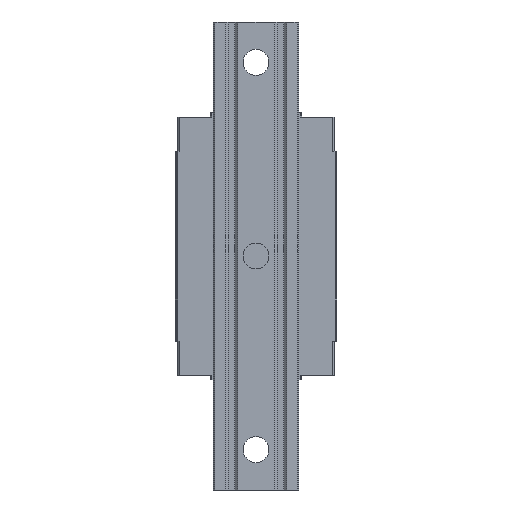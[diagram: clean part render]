
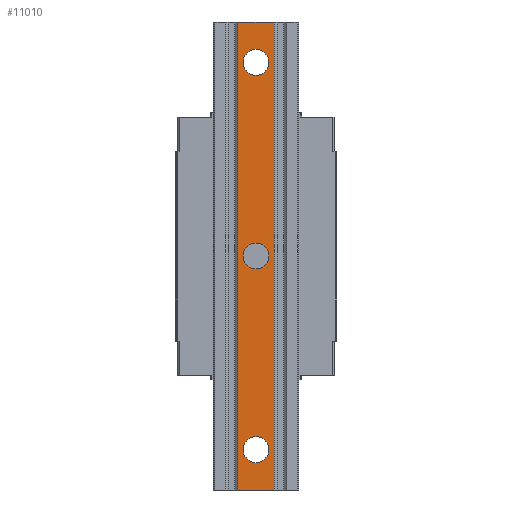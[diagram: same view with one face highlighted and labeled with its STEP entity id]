
A CAD part, front view. The second image highlights one B-rep face of the part: STEP entity #11010.
In plain terms, the highlighted planar face has unit normal (0, -1, 0).
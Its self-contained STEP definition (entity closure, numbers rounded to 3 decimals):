
#436 = LINE ( 'NONE', #9049, #4949 ) ;
#901 = EDGE_LOOP ( 'NONE', ( #7144, #11995 ) ) ;
#1185 = DIRECTION ( 'NONE',  ( 1., 0., 0. ) ) ;
#1239 = DIRECTION ( 'NONE',  ( 0., 0., 1. ) ) ;
#1259 = DIRECTION ( 'NONE',  ( 0., 0., 1. ) ) ;
#1337 = EDGE_CURVE ( 'NONE', #9044, #10629, #1723, .T. ) ;
#1375 = VECTOR ( 'NONE', #6667, 1000. ) ;
#1439 = DIRECTION ( 'NONE',  ( 0., -1., 0. ) ) ;
#1723 = LINE ( 'NONE', #5799, #9562 ) ;
#1738 = ORIENTED_EDGE ( 'NONE', *, *, #7903, .T. ) ;
#1750 = ORIENTED_EDGE ( 'NONE', *, *, #2793, .T. ) ;
#1868 = DIRECTION ( 'NONE',  ( 0., 1., 0. ) ) ;
#2343 = VERTEX_POINT ( 'NONE', #9725 ) ;
#2492 = VERTEX_POINT ( 'NONE', #5760 ) ;
#2559 = CARTESIAN_POINT ( 'NONE',  ( 0., 0., -1105. ) ) ;
#2604 = CARTESIAN_POINT ( 'NONE',  ( -26.5, 0., -1198.884 ) ) ;
#2715 = VERTEX_POINT ( 'NONE', #10479 ) ;
#2793 = EDGE_CURVE ( 'NONE', #12435, #12279, #7852, .T. ) ;
#3046 = EDGE_LOOP ( 'NONE', ( #7051, #12318 ) ) ;
#3236 = EDGE_CURVE ( 'NONE', #12816, #2492, #9785, .T. ) ;
#3266 = CARTESIAN_POINT ( 'NONE',  ( -11.357, 0., -1130. ) ) ;
#3504 = FACE_BOUND ( 'NONE', #3046, .T. ) ;
#4009 = AXIS2_PLACEMENT_3D ( 'NONE', #8897, #9773, #4787 ) ;
#4269 = CARTESIAN_POINT ( 'NONE',  ( 11.357, 0., -840. ) ) ;
#4466 = CARTESIAN_POINT ( 'NONE',  ( 11.357, 0., -1130. ) ) ;
#4671 = DIRECTION ( 'NONE',  ( 0., 0., 1. ) ) ;
#4772 = DIRECTION ( 'NONE',  ( 0., 0., -1. ) ) ;
#4787 = DIRECTION ( 'NONE',  ( 0., 0., 1. ) ) ;
#4845 = EDGE_CURVE ( 'NONE', #2715, #7582, #10169, .T. ) ;
#4949 = VECTOR ( 'NONE', #4671, 1000. ) ;
#5019 = ORIENTED_EDGE ( 'NONE', *, *, #1337, .T. ) ;
#5073 = CARTESIAN_POINT ( 'NONE',  ( 0., 0., -857. ) ) ;
#5302 = CIRCLE ( 'NONE', #12325, 8. ) ;
#5605 = EDGE_CURVE ( 'NONE', #2343, #9401, #7541, .T. ) ;
#5660 = FACE_OUTER_BOUND ( 'NONE', #12013, .T. ) ;
#5760 = CARTESIAN_POINT ( 'NONE',  ( 0., 0., -873. ) ) ;
#5799 = CARTESIAN_POINT ( 'NONE',  ( 26.5, 0., -840. ) ) ;
#6335 = ORIENTED_EDGE ( 'NONE', *, *, #3236, .T. ) ;
#6342 = EDGE_LOOP ( 'NONE', ( #6335, #13292 ) ) ;
#6667 = DIRECTION ( 'NONE',  ( 0., 0., -1. ) ) ;
#6738 = LINE ( 'NONE', #9891, #1375 ) ;
#6868 = AXIS2_PLACEMENT_3D ( 'NONE', #9230, #1868, #10248 ) ;
#7051 = ORIENTED_EDGE ( 'NONE', *, *, #12954, .T. ) ;
#7144 = ORIENTED_EDGE ( 'NONE', *, *, #4845, .T. ) ;
#7541 = CIRCLE ( 'NONE', #11952, 8. ) ;
#7582 = VERTEX_POINT ( 'NONE', #12020 ) ;
#7597 = DIRECTION ( 'NONE',  ( 0., 1., 0. ) ) ;
#7599 = EDGE_CURVE ( 'NONE', #12279, #9044, #436, .T. ) ;
#7768 = CARTESIAN_POINT ( 'NONE',  ( -11.357, 0., -840. ) ) ;
#7852 = LINE ( 'NONE', #13096, #13032 ) ;
#7903 = EDGE_CURVE ( 'NONE', #10629, #12435, #6738, .T. ) ;
#8046 = CARTESIAN_POINT ( 'NONE',  ( 0., 0., -985. ) ) ;
#8206 = ORIENTED_EDGE ( 'NONE', *, *, #7599, .T. ) ;
#8477 = AXIS2_PLACEMENT_3D ( 'NONE', #12904, #7597, #1259 ) ;
#8603 = DIRECTION ( 'NONE',  ( 0., 0., 1. ) ) ;
#8897 = CARTESIAN_POINT ( 'NONE',  ( 0., 0., -865. ) ) ;
#8944 = PLANE ( 'NONE',  #9467 ) ;
#9044 = VERTEX_POINT ( 'NONE', #4269 ) ;
#9049 = CARTESIAN_POINT ( 'NONE',  ( 11.357, 0., -1198.884 ) ) ;
#9230 = CARTESIAN_POINT ( 'NONE',  ( 0., 0., -1105. ) ) ;
#9401 = VERTEX_POINT ( 'NONE', #10866 ) ;
#9467 = AXIS2_PLACEMENT_3D ( 'NONE', #2604, #1439, #4772 ) ;
#9562 = VECTOR ( 'NONE', #9975, 1000. ) ;
#9636 = DIRECTION ( 'NONE',  ( 0., 1., 0. ) ) ;
#9725 = CARTESIAN_POINT ( 'NONE',  ( 0., 0., -993. ) ) ;
#9763 = CARTESIAN_POINT ( 'NONE',  ( 0., 0., -985. ) ) ;
#9773 = DIRECTION ( 'NONE',  ( 0., 1., 0. ) ) ;
#9785 = CIRCLE ( 'NONE', #8477, 8. ) ;
#9891 = CARTESIAN_POINT ( 'NONE',  ( -11.357, 0., -1130. ) ) ;
#9905 = EDGE_CURVE ( 'NONE', #7582, #2715, #5302, .T. ) ;
#9975 = DIRECTION ( 'NONE',  ( -1., 0., 0. ) ) ;
#10169 = CIRCLE ( 'NONE', #6868, 8. ) ;
#10248 = DIRECTION ( 'NONE',  ( 0., 0., 1. ) ) ;
#10350 = CIRCLE ( 'NONE', #12129, 8. ) ;
#10479 = CARTESIAN_POINT ( 'NONE',  ( 0., 0., -1097. ) ) ;
#10629 = VERTEX_POINT ( 'NONE', #7768 ) ;
#10770 = EDGE_CURVE ( 'NONE', #2492, #12816, #13459, .T. ) ;
#10795 = FACE_BOUND ( 'NONE', #901, .T. ) ;
#10866 = CARTESIAN_POINT ( 'NONE',  ( 0., 0., -977. ) ) ;
#10890 = DIRECTION ( 'NONE',  ( 0., 0., 1. ) ) ;
#10932 = FACE_BOUND ( 'NONE', #6342, .T. ) ;
#11010 = ADVANCED_FACE ( 'NONE', ( #10795, #3504, #10932, #5660 ), #8944, .T. ) ;
#11834 = DIRECTION ( 'NONE',  ( 0., 1., 0. ) ) ;
#11952 = AXIS2_PLACEMENT_3D ( 'NONE', #9763, #11834, #1239 ) ;
#11995 = ORIENTED_EDGE ( 'NONE', *, *, #9905, .T. ) ;
#12013 = EDGE_LOOP ( 'NONE', ( #8206, #5019, #1738, #1750 ) ) ;
#12020 = CARTESIAN_POINT ( 'NONE',  ( 0., 0., -1113. ) ) ;
#12129 = AXIS2_PLACEMENT_3D ( 'NONE', #8046, #12326, #10890 ) ;
#12279 = VERTEX_POINT ( 'NONE', #4466 ) ;
#12318 = ORIENTED_EDGE ( 'NONE', *, *, #5605, .T. ) ;
#12325 = AXIS2_PLACEMENT_3D ( 'NONE', #2559, #9636, #8603 ) ;
#12326 = DIRECTION ( 'NONE',  ( 0., 1., 0. ) ) ;
#12435 = VERTEX_POINT ( 'NONE', #3266 ) ;
#12816 = VERTEX_POINT ( 'NONE', #5073 ) ;
#12904 = CARTESIAN_POINT ( 'NONE',  ( 0., 0., -865. ) ) ;
#12954 = EDGE_CURVE ( 'NONE', #9401, #2343, #10350, .T. ) ;
#13032 = VECTOR ( 'NONE', #1185, 1000. ) ;
#13096 = CARTESIAN_POINT ( 'NONE',  ( 0., 0., -1130. ) ) ;
#13292 = ORIENTED_EDGE ( 'NONE', *, *, #10770, .T. ) ;
#13459 = CIRCLE ( 'NONE', #4009, 8. ) ;
